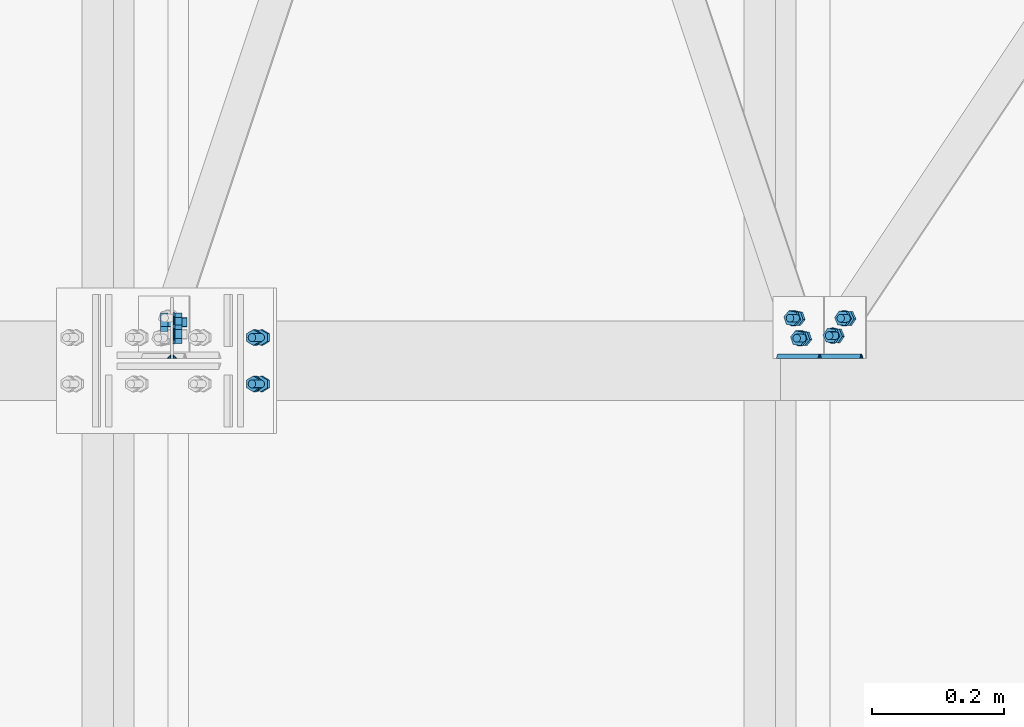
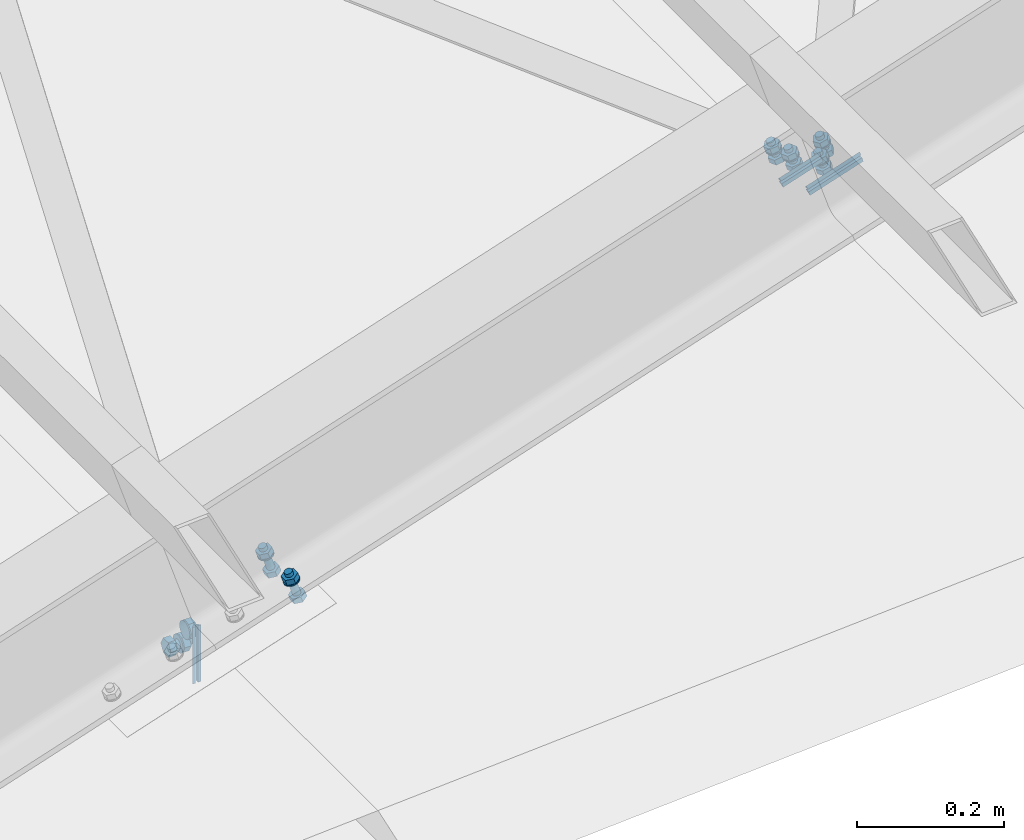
# One storey, part 36 of 53: 30 mechanical fasteners, 6 fasteners.
"""IFC4 building model written with IfcOpenShell, lengths in metres."""

from ifc_helpers import new_model, si_unit, frame, origin_with_axes, place, context, project, spatial, polyline, outline, extrude, type_object, element, save


model = new_model("IFC4")

# Units and contexts
model_context = context("Model", 3, precision=1e-05, world=origin_with_axes())
ifc_project = project(units=[si_unit("LENGTHUNIT", "METRE"), si_unit("AREAUNIT", "SQUARE_METRE"), si_unit("VOLUMEUNIT", "CUBIC_METRE"), si_unit("MASSUNIT", "GRAM", prefix="KILO"), si_unit("TIMEUNIT", "SECOND"), si_unit("PLANEANGLEUNIT", "RADIAN"), si_unit("SOLIDANGLEUNIT", "STERADIAN"), si_unit("THERMODYNAMICTEMPERATUREUNIT", "DEGREE_CELSIUS")], contexts=[model_context])

# Site, building, storey
placement_1 = place(None, origin_with_axes())
site = spatial("IfcSite", under=ifc_project, at=placement_1, Name="Italia", CompositionType="ELEMENT")
building = spatial("IfcBuilding", under=site, at=placement_1, Name="Capannone", CompositionType="ELEMENT")
storey_placement = place(None, frame((0.0, 0.0, 5.550000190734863), z_axis=(0.0, 0.0, 1.0), x_axis=(1.0, 0.0, 0.0)))
storey = spatial("IfcBuildingStorey", under=building, at=storey_placement, Name="Storey 1", CompositionType="ELEMENT", Elevation=5.550000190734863)

# Mechanical fasteners
mechanical_fastener_type_1 = type_object("IfcMechanicalFastenerType", Name="Collegamento -1055_-1089", PredefinedType="BOLT")
placement_2 = place(placement_1, origin_with_axes())
mechanical_fastener_1_placement = place(placement_2, origin_with_axes())
element("IfcMechanicalFastener", 1, at=mechanical_fastener_1_placement, inside=storey, type_object=mechanical_fastener_type_1, Name="Collegamento -1055_-1089", NominalDiameter=0.0119996, context=model_context, shape_type="SweptSolid", body=[
    extrude(outline(polyline([(0.0, 0.0), (-0.00982285, -0.00689316), (-0.00876427, -0.0188463), (0.0021162, -0.0239067), (0.011939, -0.0170135), (0.0108805, -0.00506043), (0.0, 0.0)])), frame((1.01869, 12.0369, 5.94524), z_axis=(0.312149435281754, 0.0, -0.950033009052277), x_axis=(0.0, 1.0, 0.0)), (0.0, 0.0, 1.0), 0.00960016),
])
mechanical_fastener_type_2 = type_object("IfcMechanicalFastenerType", Name="Collegamento -1055_-1089", PredefinedType="BOLT")
mechanical_fastener_2_placement = place(placement_2, origin_with_axes())
element("IfcMechanicalFastener", 2, at=mechanical_fastener_2_placement, inside=storey, type_object=mechanical_fastener_type_2, Name="Collegamento -1055_-1089", NominalDiameter=0.012, context=model_context, shape_type="SweptSolid", body=[
    extrude(outline(polyline([(0.0, 0.0), (-0.000204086, -0.00155306), (-0.000802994, -0.00300026), (-0.00175667, -0.00424266), (-0.00299931, -0.00519633), (-0.00444698, -0.00579572), (-0.00599957, -0.00600004), (-0.00755215, -0.00579572), (-0.00899982, -0.00519633), (-0.0102425, -0.00424266), (-0.0111961, -0.00300026), (-0.011795, -0.00155306), (-0.0119991, 0.0), (-0.011795, 0.00155306), (-0.0111961, 0.00300002), (-0.0102425, 0.00424242), (-0.00899982, 0.00519609), (-0.00755215, 0.00579548), (-0.00599957, 0.00600004), (-0.00444698, 0.00579548), (-0.00299931, 0.00519609), (-0.00175667, 0.00424242), (-0.000802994, 0.00300002), (-0.000204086, 0.00155306), (0.0, 0.0)])), frame((0.998594, 12.0439, 5.96811), z_axis=(0.312156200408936, 0.0, -0.95003080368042), x_axis=(0.0, 1.0, 0.0)), (0.0, 0.0, 1.0), 0.028),
])
mechanical_fastener_type_3 = type_object("IfcMechanicalFastenerType", Name="Collegamento -1055_-1089", PredefinedType="BOLT")
mechanical_fastener_3_placement = place(placement_2, origin_with_axes())
element("IfcMechanicalFastener", 3, at=mechanical_fastener_3_placement, inside=storey, type_object=mechanical_fastener_type_3, Name="Collegamento -1055_-1089", NominalDiameter=0.0119996, context=model_context, shape_type="SweptSolid", body=[
    extrude(outline(polyline([(0.0, 0.0), (-0.00982285, -0.00689292), (-0.00876427, -0.0188463), (0.0021162, -0.0239065), (0.011939, -0.0170133), (0.0108805, -0.0050602), (0.0, 0.0)])), frame((1.01195, 12.0369, 5.96576), z_axis=(0.312149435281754, 0.0, -0.950033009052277), x_axis=(0.0, 1.0, 0.0)), (0.0, 0.0, 1.0), 0.00960016),
])
mechanical_fastener_type_4 = type_object("IfcMechanicalFastenerType", Name="Collegamento -1055_-1089", PredefinedType="BOLT")
mechanical_fastener_4_placement = place(placement_2, origin_with_axes())
element("IfcMechanicalFastener", 4, at=mechanical_fastener_4_placement, inside=storey, type_object=mechanical_fastener_type_4, Name="Collegamento -1055_-1089", NominalDiameter=0.024, context=model_context, shape_type="SweptSolid", body=[
    extrude(outline(polyline([(0.0, 0.0), (-0.000409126, -0.00310588), (-0.00160789, -0.0059998), (-0.00351524, -0.00848508), (-0.00600052, -0.0103922), (-0.00889397, -0.0115912), (-0.0120001, -0.0119998), (-0.0151062, -0.0115912), (-0.0179996, -0.0103922), (-0.0204849, -0.00848508), (-0.0223923, -0.0059998), (-0.023591, -0.00310588), (-0.0240002, 0.0), (-0.023591, 0.00310588), (-0.0223923, 0.00600004), (-0.0204849, 0.00848532), (-0.0179996, 0.0103924), (-0.0151062, 0.0115912), (-0.0120001, 0.0120001), (-0.00889397, 0.0115912), (-0.00600052, 0.0103924), (-0.00351524, 0.00848532), (-0.00160789, 0.00600004), (-0.000409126, 0.00310588), (0.0, 0.0)])), frame((1.00359, 12.0499, 5.95291), z_axis=(0.312059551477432, 0.0, -0.95006251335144), x_axis=(0.0, 1.0, 0.0)), (0.0, 0.0, 1.0), 0.00200058),
])
mechanical_fastener_type_5 = type_object("IfcMechanicalFastenerType", Name="Collegamento -1055_-1089", PredefinedType="BOLT")
mechanical_fastener_5_placement = place(placement_2, origin_with_axes())
element("IfcMechanicalFastener", 5, at=mechanical_fastener_5_placement, inside=storey, type_object=mechanical_fastener_type_5, Name="Collegamento -1055_-1089", NominalDiameter=0.0119992, context=model_context, shape_type="SweptSolid", body=[
    extrude(outline(polyline([(0.0, 0.0), (-0.00982189, -0.00689292), (-0.00876427, -0.018846), (0.0021162, -0.0239065), (0.011939, -0.0170135), (0.0108814, -0.0050602), (0.0, 0.0)])), frame((1.03615, 12.0631, 5.95097), z_axis=(0.312149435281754, 0.0, -0.950033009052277), x_axis=(0.0, 1.0, 0.0)), (0.0, 0.0, 1.0), 0.00960016),
])
mechanical_fastener_type_6 = type_object("IfcMechanicalFastenerType", Name="Collegamento -1055_-1089", PredefinedType="BOLT")
mechanical_fastener_6_placement = place(placement_2, origin_with_axes())
element("IfcMechanicalFastener", 6, at=mechanical_fastener_6_placement, inside=storey, type_object=mechanical_fastener_type_6, Name="Collegamento -1055_-1089", NominalDiameter=0.012, context=model_context, shape_type="SweptSolid", body=[
    extrude(outline(polyline([(0.0, 0.0), (-0.000204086, -0.00155306), (-0.000802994, -0.00300002), (-0.00175667, -0.00424242), (-0.00299931, -0.00519609), (-0.00444698, -0.00579548), (-0.00599957, -0.00600004), (-0.00755215, -0.00579548), (-0.00899982, -0.00519609), (-0.0102425, -0.00424242), (-0.0111961, -0.00300002), (-0.011795, -0.00155306), (-0.0119991, 0.0), (-0.011795, 0.00155306), (-0.0111961, 0.00300002), (-0.0102425, 0.00424242), (-0.00899982, 0.00519609), (-0.00755215, 0.00579548), (-0.00599957, 0.00600004), (-0.00444698, 0.00579548), (-0.00299931, 0.00519609), (-0.00175667, 0.00424242), (-0.000802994, 0.00300002), (-0.000204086, 0.00155306), (0.0, 0.0)])), frame((1.01606, 12.0701, 5.97384), z_axis=(0.312158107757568, 0.0, -0.950030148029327), x_axis=(0.0, 1.0, 0.0)), (0.0, 0.0, 1.0), 0.028),
])
mechanical_fastener_type_7 = type_object("IfcMechanicalFastenerType", Name="Collegamento -1055_-1089", PredefinedType="BOLT")
mechanical_fastener_7_placement = place(placement_2, origin_with_axes())
element("IfcMechanicalFastener", 7, at=mechanical_fastener_7_placement, inside=storey, type_object=mechanical_fastener_type_7, Name="Collegamento -1055_-1089", NominalDiameter=0.0119992, context=model_context, shape_type="SweptSolid", body=[
    extrude(outline(polyline([(0.0, 0.0), (-0.00982189, -0.00689292), (-0.00876427, -0.0188463), (0.0021162, -0.0239065), (0.011939, -0.0170135), (0.0108814, -0.00506043), (0.0, 0.0)])), frame((1.02941, 12.0631, 5.9715), z_axis=(0.312149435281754, 0.0, -0.950033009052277), x_axis=(0.0, 1.0, 0.0)), (0.0, 0.0, 1.0), 0.00960016),
])
mechanical_fastener_type_8 = type_object("IfcMechanicalFastenerType", Name="Collegamento -1055_-1089", PredefinedType="BOLT")
mechanical_fastener_8_placement = place(placement_2, origin_with_axes())
element("IfcMechanicalFastener", 8, at=mechanical_fastener_8_placement, inside=storey, type_object=mechanical_fastener_type_8, Name="Collegamento -1055_-1089", NominalDiameter=0.024, context=model_context, shape_type="SweptSolid", body=[
    extrude(outline(polyline([(0.0, 0.0), (-0.000409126, -0.00310588), (-0.00160789, -0.00600004), (-0.00351524, -0.00848556), (-0.00600052, -0.0103924), (-0.00889397, -0.0115912), (-0.0120001, -0.0120001), (-0.0151062, -0.0115912), (-0.0179996, -0.0103924), (-0.0204849, -0.00848556), (-0.0223923, -0.00600004), (-0.023591, -0.00310588), (-0.0240002, 0.0), (-0.023591, 0.00310564), (-0.0223923, 0.0059998), (-0.0204849, 0.00848532), (-0.0179996, 0.0103924), (-0.0151062, 0.011591), (-0.0120001, 0.0120001), (-0.00889397, 0.011591), (-0.00600052, 0.0103924), (-0.00351524, 0.00848532), (-0.00160789, 0.0059998), (-0.000409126, 0.00310564), (0.0, 0.0)])), frame((1.02105, 12.0761, 5.95864), z_axis=(0.312200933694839, 0.0, -0.95001608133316), x_axis=(0.0, 1.0, 0.0)), (0.0, 0.0, 1.0), 0.00199967),
])

# Fasteners
fastener_type_1 = type_object("IfcFastenerType", Name="Collegamento -1055_-1089", PredefinedType="WELD")
fastener_1_placement = place(placement_2, origin_with_axes())
element("IfcFastener", 9, at=fastener_1_placement, inside=storey, type_object=fastener_type_1, Name="Collegamento -1055_-1089", context=model_context, shape_type="SweptSolid", body=[
    extrude(outline(polyline([(0.0, 0.0), (0.00717258, -0.00695801), (0.0, -0.00695801), (0.0, 0.0)])), frame((0.960742, 12.0031, 5.94399), z_axis=(0.950030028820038, 0.0, 0.312158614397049), x_axis=(0.0, 1.0, 0.0)), (0.0, 0.0, 1.0), 0.0880998),
])
fastener_type_2 = type_object("IfcFastenerType", Name="Collegamento -1055_-1089", PredefinedType="WELD")
fastener_2_placement = place(placement_2, origin_with_axes())
element("IfcFastener", 10, at=fastener_2_placement, inside=storey, type_object=fastener_type_2, Name="Collegamento -1055_-1089", context=model_context, shape_type="SweptSolid", body=[
    extrude(outline(polyline([(0.0, 0.0), (-0.00717258, 0.00695801), (0.0, 0.00695801), (0.0, 0.0)])), frame((1.05031, 12.0031, 5.95362), z_axis=(-0.950031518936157, 0.0, -0.312153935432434), x_axis=(0.0, -1.0, 0.0)), (0.0, 0.0, 1.0), 0.0880996),
])

# Mechanical fasteners
mechanical_fastener_type_9 = type_object("IfcMechanicalFastenerType", Name="Collegamento -1055_0111", PredefinedType="BOLT")
mechanical_fastener_9_placement = place(placement_2, origin_with_axes())
element("IfcMechanicalFastener", 11, at=mechanical_fastener_9_placement, inside=storey, type_object=mechanical_fastener_type_9, Name="Collegamento -1055_0111", NominalDiameter=0.0119997, context=model_context, shape_type="SweptSolid", body=[
    extrude(outline(polyline([(0.0, 0.0), (-0.0113239, 0.00397301), (-0.0204258, -0.00384688), (-0.0182047, -0.0156395), (-0.00688171, -0.0196126), (0.00222111, -0.0117929), (0.0, 0.0)])), frame((0.965653, 12.0431, 5.96991), z_axis=(0.312164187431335, 0.0, -0.95002818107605), x_axis=(0.0, 1.0, 0.0)), (0.0, 0.0, 1.0), 0.0095997),
])
mechanical_fastener_type_10 = type_object("IfcMechanicalFastenerType", Name="Collegamento -1055_0111", PredefinedType="BOLT")
mechanical_fastener_10_placement = place(placement_2, origin_with_axes())
element("IfcMechanicalFastener", 12, at=mechanical_fastener_10_placement, inside=storey, type_object=mechanical_fastener_type_10, Name="Collegamento -1055_0111", NominalDiameter=0.012, context=model_context, shape_type="SweptSolid", body=[
    extrude(outline(polyline([(0.0, 0.0), (-0.000204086, -0.00155306), (-0.000802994, -0.00300002), (-0.00175667, -0.00424266), (-0.00299931, -0.00519633), (-0.00444698, -0.00579572), (-0.00599957, -0.00600004), (-0.00755215, -0.00579572), (-0.00899982, -0.00519633), (-0.0102425, -0.00424266), (-0.0111961, -0.00300002), (-0.011795, -0.00155306), (-0.0119991, 0.0), (-0.011795, 0.00155282), (-0.0111961, 0.00300002), (-0.0102425, 0.00424266), (-0.00899982, 0.00519609), (-0.00755215, 0.00579548), (-0.00599957, 0.00600004), (-0.00444698, 0.00579548), (-0.00299931, 0.00519609), (-0.00175667, 0.00424266), (-0.000802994, 0.00300002), (-0.000204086, 0.00155282), (0.0, 0.0)])), frame((0.949483, 12.04, 5.99407), z_axis=(0.31215426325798, 0.0, -0.950031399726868), x_axis=(0.0, 1.0, 0.0)), (0.0, 0.0, 1.0), 0.028),
])
mechanical_fastener_type_11 = type_object("IfcMechanicalFastenerType", Name="Collegamento -1055_0111", PredefinedType="BOLT")
mechanical_fastener_11_placement = place(placement_2, origin_with_axes())
element("IfcMechanicalFastener", 13, at=mechanical_fastener_11_placement, inside=storey, type_object=mechanical_fastener_type_11, Name="Collegamento -1055_0111", NominalDiameter=0.0119997, context=model_context, shape_type="SweptSolid", body=[
    extrude(outline(polyline([(0.0, 0.0), (-0.0113239, 0.00397301), (-0.0204258, -0.00384665), (-0.0182047, -0.0156395), (-0.00688171, -0.0196123), (0.00222111, -0.0117927), (0.0, 0.0)])), frame((0.95891, 12.0431, 5.99043), z_axis=(0.312158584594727, 0.0, -0.950030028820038), x_axis=(0.0, 1.0, 0.0)), (0.0, 0.0, 1.0), 0.00959968),
])
mechanical_fastener_type_12 = type_object("IfcMechanicalFastenerType", Name="Collegamento -1055_0111", PredefinedType="BOLT")
mechanical_fastener_12_placement = place(placement_2, origin_with_axes())
element("IfcMechanicalFastener", 14, at=mechanical_fastener_12_placement, inside=storey, type_object=mechanical_fastener_type_12, Name="Collegamento -1055_0111", NominalDiameter=0.024, context=model_context, shape_type="SweptSolid", body=[
    extrude(outline(polyline([(0.0, 0.0), (-0.000409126, -0.00310588), (-0.00160789, -0.00600004), (-0.00351524, -0.00848532), (-0.00600052, -0.0103922), (-0.00889397, -0.0115912), (-0.0120001, -0.0120001), (-0.0151062, -0.0115912), (-0.0179996, -0.0103922), (-0.0204849, -0.00848532), (-0.0223923, -0.00600004), (-0.023591, -0.00310588), (-0.0240002, 0.0), (-0.023591, 0.00310588), (-0.0223923, 0.00600004), (-0.0204849, 0.00848532), (-0.0179996, 0.0103922), (-0.0151062, 0.011591), (-0.0120001, 0.0119998), (-0.00889397, 0.011591), (-0.00600052, 0.0103922), (-0.00351524, 0.00848532), (-0.00160789, 0.00600004), (-0.000409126, 0.00310588), (0.0, 0.0)])), frame((0.954478, 12.046, 5.97887), z_axis=(0.312254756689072, 0.0, -0.949998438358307), x_axis=(0.0, 1.0, 0.0)), (0.0, 0.0, 1.0), 0.00199971),
])
mechanical_fastener_type_13 = type_object("IfcMechanicalFastenerType", Name="Collegamento -1055_0111", PredefinedType="BOLT")
mechanical_fastener_13_placement = place(placement_2, origin_with_axes())
element("IfcMechanicalFastener", 15, at=mechanical_fastener_13_placement, inside=storey, type_object=mechanical_fastener_type_13, Name="Collegamento -1055_0111", NominalDiameter=0.0119997, context=model_context, shape_type="SweptSolid", body=[
    extrude(outline(polyline([(0.0, 0.0), (-0.0113239, 0.00397277), (-0.0204258, -0.00384712), (-0.0182047, -0.0156395), (-0.00688171, -0.0196126), (0.00222111, -0.0117927), (0.0, 0.0)])), frame((0.955588, 12.0733, 5.96661), z_axis=(0.312149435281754, 0.0, -0.950033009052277), x_axis=(0.0, 1.0, 0.0)), (0.0, 0.0, 1.0), 0.00960016),
])
mechanical_fastener_type_14 = type_object("IfcMechanicalFastenerType", Name="Collegamento -1055_0111", PredefinedType="BOLT")
mechanical_fastener_14_placement = place(placement_2, origin_with_axes())
element("IfcMechanicalFastener", 16, at=mechanical_fastener_14_placement, inside=storey, type_object=mechanical_fastener_type_14, Name="Collegamento -1055_0111", NominalDiameter=0.012, context=model_context, shape_type="SweptSolid", body=[
    extrude(outline(polyline([(0.0, 0.0), (-0.000204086, -0.00155306), (-0.000802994, -0.00300002), (-0.00175667, -0.00424266), (-0.00299931, -0.00519609), (-0.00444698, -0.00579548), (-0.00599957, -0.00600004), (-0.00755215, -0.00579548), (-0.00899982, -0.00519609), (-0.0102425, -0.00424266), (-0.0111961, -0.00300002), (-0.011795, -0.00155306), (-0.0119991, 0.0), (-0.011795, 0.00155306), (-0.0111961, 0.00300002), (-0.0102425, 0.00424266), (-0.00899982, 0.00519633), (-0.00755215, 0.00579548), (-0.00599957, 0.00600004), (-0.00444698, 0.00579548), (-0.00299931, 0.00519633), (-0.00175667, 0.00424266), (-0.000802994, 0.00300002), (-0.000204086, 0.00155306), (0.0, 0.0)])), frame((0.939418, 12.0702, 5.99077), z_axis=(0.31215426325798, 0.0, -0.950031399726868), x_axis=(0.0, 1.0, 0.0)), (0.0, 0.0, 1.0), 0.028),
])
mechanical_fastener_type_15 = type_object("IfcMechanicalFastenerType", Name="Collegamento -1055_0111", PredefinedType="BOLT")
mechanical_fastener_15_placement = place(placement_2, origin_with_axes())
element("IfcMechanicalFastener", 17, at=mechanical_fastener_15_placement, inside=storey, type_object=mechanical_fastener_type_15, Name="Collegamento -1055_0111", NominalDiameter=0.0119997, context=model_context, shape_type="SweptSolid", body=[
    extrude(outline(polyline([(0.0, 0.0), (-0.0113239, 0.00397253), (-0.0204258, -0.00384712), (-0.0182047, -0.0156398), (-0.00688171, -0.0196126), (0.00222111, -0.0117929), (0.0, 0.0)])), frame((0.948845, 12.0733, 5.98713), z_axis=(0.312149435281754, 0.0, -0.950033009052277), x_axis=(0.0, 1.0, 0.0)), (0.0, 0.0, 1.0), 0.00960016),
])
mechanical_fastener_type_16 = type_object("IfcMechanicalFastenerType", Name="Collegamento -1055_0111", PredefinedType="BOLT")
mechanical_fastener_16_placement = place(placement_2, origin_with_axes())
element("IfcMechanicalFastener", 18, at=mechanical_fastener_16_placement, inside=storey, type_object=mechanical_fastener_type_16, Name="Collegamento -1055_0111", NominalDiameter=0.024, context=model_context, shape_type="SweptSolid", body=[
    extrude(outline(polyline([(0.0, 0.0), (-0.000409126, -0.00310588), (-0.00160789, -0.00600004), (-0.00351524, -0.00848532), (-0.00600052, -0.0103924), (-0.00889397, -0.0115912), (-0.0120001, -0.0120001), (-0.0151062, -0.0115912), (-0.0179996, -0.0103924), (-0.0204849, -0.00848532), (-0.0223923, -0.00600004), (-0.023591, -0.00310588), (-0.0240002, 0.0), (-0.023591, 0.00310588), (-0.0223923, 0.00600004), (-0.0204849, 0.00848532), (-0.0179996, 0.0103924), (-0.0151062, 0.0115912), (-0.0120001, 0.0120001), (-0.00889397, 0.0115912), (-0.00600052, 0.0103924), (-0.00351524, 0.00848508), (-0.00160789, 0.00600004), (-0.000409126, 0.00310588), (0.0, 0.0)])), frame((0.944413, 12.0762, 5.97557), z_axis=(0.312184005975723, 0.0, -0.950021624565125), x_axis=(0.0, 1.0, 0.0)), (0.0, 0.0, 1.0), 0.00200016),
])

# Fasteners
fastener_type_3 = type_object("IfcFastenerType", Name="Collegamento -1055_0111", PredefinedType="WELD")
fastener_3_placement = place(placement_2, origin_with_axes())
element("IfcFastener", 19, at=fastener_3_placement, inside=storey, type_object=fastener_type_3, Name="Collegamento -1055_0111", context=model_context, shape_type="SweptSolid", body=[
    extrude(outline(polyline([(0.0, 0.0), (0.00717258, -0.00695753), (0.0, -0.00695753), (0.0, 0.0)])), frame((0.918555, 12.0031, 5.97224), z_axis=(0.950031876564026, 0.0, 0.312152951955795), x_axis=(0.0, 1.0, 0.0)), (0.0, 0.0, 1.0), 0.0660997),
])
fastener_type_4 = type_object("IfcFastenerType", Name="Collegamento -1055_0111", PredefinedType="WELD")
fastener_4_placement = place(placement_2, origin_with_axes())
element("IfcFastener", 20, at=fastener_4_placement, inside=storey, type_object=fastener_type_4, Name="Collegamento -1055_0111", context=model_context, shape_type="SweptSolid", body=[
    extrude(outline(polyline([(0.0, 0.0), (-0.00717258, 0.00695848), (0.0, 0.00695848), (0.0, 0.0)])), frame((0.987225, 12.0031, 5.97499), z_axis=(-0.950034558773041, 0.0, -0.312144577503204), x_axis=(0.0, -1.0, 0.0)), (0.0, 0.0, 1.0), 0.0661),
])

# Mechanical fasteners
mechanical_fastener_type_17 = type_object("IfcMechanicalFastenerType", Name="Collegamenti 0101_0001 0103_0003 0105_0005 0107_0007 0109_0009 0111_0011", PredefinedType="BOLT")
mechanical_fastener_17_placement = place(placement_2, origin_with_axes())
element("IfcMechanicalFastener", 21, at=mechanical_fastener_17_placement, inside=storey, type_object=mechanical_fastener_type_17, Name="Collegamenti 0101_0001 0103_0003 0105_0005 0107_0007 0109_0009 0111_0011", NominalDiameter=0.0119998, context=model_context, shape_type="SweptSolid", body=[
    extrude(outline(polyline([(0.0, 0.0), (0.0120001, 0.0), (0.0179996, -0.0103923), (0.0120001, -0.0207845), (0.0, -0.0207845), (-0.00600052, -0.0103923), (0.0, 0.0)])), frame((0.15003, 12.029, 5.58351), z_axis=(0.312164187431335, 0.0, -0.95002818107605), x_axis=(0.0, 1.0, 0.0)), (0.0, 0.0, 1.0), 0.0095997),
])
mechanical_fastener_type_18 = type_object("IfcMechanicalFastenerType", Name="Collegamenti 0101_0001 0103_0003 0105_0005 0107_0007 0109_0009 0111_0011", PredefinedType="BOLT")
mechanical_fastener_18_placement = place(placement_2, origin_with_axes())
element("IfcMechanicalFastener", 22, at=mechanical_fastener_18_placement, inside=storey, type_object=mechanical_fastener_type_18, Name="Collegamenti 0101_0001 0103_0003 0105_0005 0107_0007 0109_0009 0111_0011", NominalDiameter=0.012, context=model_context, shape_type="SweptSolid", body=[
    extrude(outline(polyline([(0.0, 0.0), (-0.000204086, -0.00155306), (-0.000802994, -0.00300014), (-0.00175667, -0.00424266), (-0.00299931, -0.00519633), (-0.00444698, -0.00579572), (-0.00599957, -0.00600016), (-0.00755215, -0.00579572), (-0.00899982, -0.00519633), (-0.0102425, -0.00424266), (-0.0111961, -0.00300014), (-0.011795, -0.00155306), (-0.0119991, 0.0), (-0.011795, 0.00155294), (-0.0111961, 0.0029999), (-0.0102425, 0.00424254), (-0.00899982, 0.00519609), (-0.00755215, 0.00579548), (-0.00599957, 0.00599992), (-0.00444698, 0.00579548), (-0.00299931, 0.00519609), (-0.00175667, 0.00424254), (-0.000802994, 0.0029999), (-0.000204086, 0.00155294), (0.0, 0.0)])), frame((0.126797, 12.041, 5.62092), z_axis=(0.312151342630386, 0.0, -0.950032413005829), x_axis=(0.0, 1.0, 0.0)), (0.0, 0.0, 1.0), 0.0428004),
])
mechanical_fastener_type_19 = type_object("IfcMechanicalFastenerType", Name="Collegamenti 0101_0001 0103_0003 0105_0005 0107_0007 0109_0009 0111_0011", PredefinedType="BOLT")
mechanical_fastener_19_placement = place(placement_2, origin_with_axes())
element("IfcMechanicalFastener", 23, at=mechanical_fastener_19_placement, inside=storey, type_object=mechanical_fastener_type_19, Name="Collegamenti 0101_0001 0103_0003 0105_0005 0107_0007 0109_0009 0111_0011", NominalDiameter=0.0119998, context=model_context, shape_type="SweptSolid", body=[
    extrude(outline(polyline([(0.0, 0.0), (0.0120001, 0.0), (0.0179996, -0.0103924), (0.0120001, -0.0207846), (0.0, -0.0207846), (-0.00600052, -0.0103924), (0.0, 0.0)])), frame((0.138667, 12.029, 5.61809), z_axis=(0.312164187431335, 0.0, -0.95002818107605), x_axis=(0.0, 1.0, 0.0)), (0.0, 0.0, 1.0), 0.0095997),
])
mechanical_fastener_type_20 = type_object("IfcMechanicalFastenerType", Name="Collegamenti 0101_0001 0103_0003 0105_0005 0107_0007 0109_0009 0111_0011", PredefinedType="BOLT")
mechanical_fastener_20_placement = place(placement_2, origin_with_axes())
element("IfcMechanicalFastener", 24, at=mechanical_fastener_20_placement, inside=storey, type_object=mechanical_fastener_type_20, Name="Collegamenti 0101_0001 0103_0003 0105_0005 0107_0007 0109_0009 0111_0011", NominalDiameter=0.024, context=model_context, shape_type="SweptSolid", body=[
    extrude(outline(polyline([(0.0, 0.0), (-0.000409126, -0.00310588), (-0.00160789, -0.00600004), (-0.00351524, -0.00848532), (-0.00600052, -0.0103923), (-0.00889397, -0.0115911), (-0.0120001, -0.012), (-0.0151062, -0.0115911), (-0.0179996, -0.0103923), (-0.0204849, -0.00848532), (-0.0223923, -0.00600004), (-0.023591, -0.00310588), (-0.0240002, 0.0), (-0.023591, 0.00310588), (-0.0223923, 0.00600004), (-0.0204849, 0.0084852), (-0.0179996, 0.0103923), (-0.0151062, 0.0115912), (-0.0120001, 0.012), (-0.00889397, 0.0115912), (-0.00600052, 0.0103923), (-0.00351524, 0.0084852), (-0.00160789, 0.00600004), (-0.000409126, 0.00310588), (0.0, 0.0)])), frame((0.131791, 12.047, 5.60572), z_axis=(0.312059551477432, 0.0, -0.95006251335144), x_axis=(0.0, 1.0, 0.0)), (0.0, 0.0, 1.0), 0.00200058),
])
mechanical_fastener_type_21 = type_object("IfcMechanicalFastenerType", Name="Collegamenti 0101_0001 0103_0003 0105_0005 0107_0007 0109_0009 0111_0011", PredefinedType="BOLT")
mechanical_fastener_21_placement = place(placement_2, origin_with_axes())
element("IfcMechanicalFastener", 25, at=mechanical_fastener_21_placement, inside=storey, type_object=mechanical_fastener_type_21, Name="Collegamenti 0101_0001 0103_0003 0105_0005 0107_0007 0109_0009 0111_0011", NominalDiameter=0.0119998, context=model_context, shape_type="SweptSolid", body=[
    extrude(outline(polyline([(0.0, 0.0), (0.0120001, 0.0), (0.0180006, -0.0103923), (0.0120001, -0.0207845), (0.0, -0.0207845), (-0.00599957, -0.0103923), (0.0, 0.0)])), frame((0.15003, 11.959, 5.58351), z_axis=(0.312164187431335, 0.0, -0.95002818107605), x_axis=(0.0, 1.0, 0.0)), (0.0, 0.0, 1.0), 0.0095997),
])
mechanical_fastener_type_22 = type_object("IfcMechanicalFastenerType", Name="Collegamenti 0101_0001 0103_0003 0105_0005 0107_0007 0109_0009 0111_0011", PredefinedType="BOLT")
mechanical_fastener_22_placement = place(placement_2, origin_with_axes())
element("IfcMechanicalFastener", 26, at=mechanical_fastener_22_placement, inside=storey, type_object=mechanical_fastener_type_22, Name="Collegamenti 0101_0001 0103_0003 0105_0005 0107_0007 0109_0009 0111_0011", NominalDiameter=0.012, context=model_context, shape_type="SweptSolid", body=[
    extrude(outline(polyline([(0.0, 0.0), (-0.000204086, -0.00155306), (-0.000802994, -0.00300014), (-0.00175667, -0.00424266), (-0.00299931, -0.00519633), (-0.00444698, -0.00579572), (-0.00599957, -0.00600016), (-0.00755215, -0.00579572), (-0.00899982, -0.00519633), (-0.0102425, -0.00424266), (-0.0111961, -0.00300014), (-0.011795, -0.00155306), (-0.0119991, 0.0), (-0.011795, 0.00155294), (-0.0111961, 0.0029999), (-0.0102425, 0.00424254), (-0.00899982, 0.00519609), (-0.00755215, 0.00579548), (-0.00599957, 0.00599992), (-0.00444698, 0.00579548), (-0.00299931, 0.00519609), (-0.00175667, 0.00424254), (-0.000802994, 0.0029999), (-0.000204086, 0.00155294), (0.0, 0.0)])), frame((0.126797, 11.971, 5.62092), z_axis=(0.312151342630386, 0.0, -0.950032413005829), x_axis=(0.0, 1.0, 0.0)), (0.0, 0.0, 1.0), 0.0428004),
])
mechanical_fastener_type_23 = type_object("IfcMechanicalFastenerType", Name="Collegamenti 0101_0001 0103_0003 0105_0005 0107_0007 0109_0009 0111_0011", PredefinedType="BOLT")
mechanical_fastener_23_placement = place(placement_2, origin_with_axes())
element("IfcMechanicalFastener", 27, at=mechanical_fastener_23_placement, inside=storey, type_object=mechanical_fastener_type_23, Name="Collegamenti 0101_0001 0103_0003 0105_0005 0107_0007 0109_0009 0111_0011", NominalDiameter=0.0119998, context=model_context, shape_type="SweptSolid", body=[
    extrude(outline(polyline([(0.0, 0.0), (0.0120001, 0.0), (0.0180006, -0.0103924), (0.0120001, -0.0207846), (0.0, -0.0207846), (-0.00599957, -0.0103924), (0.0, 0.0)])), frame((0.138667, 11.959, 5.61809), z_axis=(0.312164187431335, 0.0, -0.95002818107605), x_axis=(0.0, 1.0, 0.0)), (0.0, 0.0, 1.0), 0.0095997),
])
mechanical_fastener_type_24 = type_object("IfcMechanicalFastenerType", Name="Collegamenti 0101_0001 0103_0003 0105_0005 0107_0007 0109_0009 0111_0011", PredefinedType="BOLT")
mechanical_fastener_24_placement = place(placement_2, origin_with_axes())
element("IfcMechanicalFastener", 28, at=mechanical_fastener_24_placement, inside=storey, type_object=mechanical_fastener_type_24, Name="Collegamenti 0101_0001 0103_0003 0105_0005 0107_0007 0109_0009 0111_0011", NominalDiameter=0.024, context=model_context, shape_type="SweptSolid", body=[
    extrude(outline(polyline([(0.0, 0.0), (-0.000409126, -0.00310588), (-0.00160789, -0.00600004), (-0.00351524, -0.00848532), (-0.00600052, -0.0103923), (-0.00889397, -0.0115911), (-0.0120001, -0.012), (-0.0151062, -0.0115911), (-0.0179996, -0.0103923), (-0.0204849, -0.00848532), (-0.0223923, -0.00600004), (-0.023591, -0.00310588), (-0.0240002, 0.0), (-0.023591, 0.00310588), (-0.0223923, 0.00600004), (-0.0204849, 0.0084852), (-0.0179996, 0.0103923), (-0.0151062, 0.0115912), (-0.0120001, 0.012), (-0.00889397, 0.0115912), (-0.00600052, 0.0103923), (-0.00351524, 0.0084852), (-0.00160789, 0.00600004), (-0.000409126, 0.00310588), (0.0, 0.0)])), frame((0.131791, 11.977, 5.60572), z_axis=(0.312059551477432, 0.0, -0.95006251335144), x_axis=(0.0, 1.0, 0.0)), (0.0, 0.0, 1.0), 0.00200058),
])
mechanical_fastener_type_25 = type_object("IfcMechanicalFastenerType", Name="Collegamento 0109_0011", PredefinedType="BOLT")
mechanical_fastener_25_placement = place(placement_2, origin_with_axes())
element("IfcMechanicalFastener", 29, at=mechanical_fastener_25_placement, inside=storey, type_object=mechanical_fastener_type_25, Name="Collegamento 0109_0011", NominalDiameter=0.0139996, context=model_context, shape_type="SweptSolid", body=[
    extrude(outline(polyline([(0.0, 0.0), (0.00665665, 0.0123158), (-0.00067997, 0.0242391), (-0.0146751, 0.0238466), (-0.0213318, 0.0115309), (-0.0139952, -0.000392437), (0.0, 0.0)])), frame((0.0212, 12.0327, 5.50768), z_axis=(-1.0, 0.0, 0.0), x_axis=(0.0, -1.0, 0.0)), (0.0, 0.0, 1.0), 0.0112),
])
mechanical_fastener_type_26 = type_object("IfcMechanicalFastenerType", Name="Collegamento 0109_0011", PredefinedType="BOLT")
mechanical_fastener_26_placement = place(placement_2, origin_with_axes())
element("IfcMechanicalFastener", 30, at=mechanical_fastener_26_placement, inside=storey, type_object=mechanical_fastener_type_26, Name="Collegamento 0109_0011", NominalDiameter=0.028, context=model_context, shape_type="SweptSolid", body=[
    extrude(outline(polyline([(0.0, 0.0), (-0.000476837, -0.00362349), (-0.00187588, -0.00699997), (-0.0041008, -0.00989962), (-0.00699997, -0.0121245), (-0.0103769, -0.0135231), (-0.0139999, -0.0139999), (-0.0176229, -0.0135231), (-0.0209999, -0.0121245), (-0.0238991, -0.00989962), (-0.026124, -0.00699997), (-0.027523, -0.00362349), (-0.0279999, 0.0), (-0.027523, 0.00362349), (-0.026124, 0.00699997), (-0.0238991, 0.00989962), (-0.0209999, 0.0121245), (-0.0176229, 0.0135231), (-0.0139999, 0.0139999), (-0.0103769, 0.0135231), (-0.00699997, 0.0121245), (-0.0041008, 0.00989962), (-0.00187588, 0.00699997), (-0.000476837, 0.00362349), (0.0, 0.0)])), frame((0.01, 12.026, 5.5196), z_axis=(-1.0, 0.0, 0.0), x_axis=(0.0, -1.0, 0.0)), (0.0, 0.0, 1.0), 0.002),
])
mechanical_fastener_type_27 = type_object("IfcMechanicalFastenerType", Name="Collegamento 0109_0011", PredefinedType="BOLT")
mechanical_fastener_27_placement = place(placement_2, origin_with_axes())
element("IfcMechanicalFastener", 31, at=mechanical_fastener_27_placement, inside=storey, type_object=mechanical_fastener_type_27, Name="Collegamento 0109_0011", NominalDiameter=0.0139997, context=model_context, shape_type="SweptSolid", body=[
    extrude(outline(polyline([(0.0, 0.0), (0.0066576, 0.0123158), (-0.00067997, 0.0242391), (-0.0146742, 0.0238461), (-0.0213318, 0.0115304), (-0.0139942, -0.000392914), (0.0, 0.0)])), frame((0.0, 12.0507, 5.47425), z_axis=(-1.0, 0.0, 0.0), x_axis=(0.0, -1.0, 0.0)), (0.0, 0.0, 1.0), 0.0112),
])
mechanical_fastener_type_28 = type_object("IfcMechanicalFastenerType", Name="Collegamento 0109_0011", PredefinedType="BOLT")
mechanical_fastener_28_placement = place(placement_2, origin_with_axes())
element("IfcMechanicalFastener", 32, at=mechanical_fastener_28_placement, inside=storey, type_object=mechanical_fastener_type_28, Name="Collegamento 0109_0011", NominalDiameter=0.014, context=model_context, shape_type="SweptSolid", body=[
    extrude(outline(polyline([(0.0, 0.0), (-0.000238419, -0.0018115), (-0.000937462, -0.00349998), (-0.0020504, -0.00494957), (-0.00349998, -0.00606203), (-0.00518799, -0.00676155), (-0.00699997, -0.00699997), (-0.00881195, -0.00676155), (-0.0105, -0.00606203), (-0.0119495, -0.00494957), (-0.0130625, -0.00349998), (-0.0137615, -0.0018115), (-0.0139999, 0.0), (-0.0137615, 0.0018115), (-0.0130625, 0.00349998), (-0.0119495, 0.00494957), (-0.0105, 0.00606203), (-0.00881195, 0.00676155), (-0.00699997, 0.00699997), (-0.00518799, 0.00676155), (-0.00349998, 0.00606203), (-0.0020504, 0.00494957), (-0.000937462, 0.00349998), (-0.000238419, 0.0018115), (0.0, 0.0)])), frame((0.029, 12.0511, 5.48617), z_axis=(-1.0, 0.0, 0.0), x_axis=(0.0, -1.0, 0.0)), (0.0, 0.0, 1.0), 0.029),
])
mechanical_fastener_type_29 = type_object("IfcMechanicalFastenerType", Name="Collegamento 0109_0011", PredefinedType="BOLT")
mechanical_fastener_29_placement = place(placement_2, origin_with_axes())
element("IfcMechanicalFastener", 33, at=mechanical_fastener_29_placement, inside=storey, type_object=mechanical_fastener_type_29, Name="Collegamento 0109_0011", NominalDiameter=0.0139997, context=model_context, shape_type="SweptSolid", body=[
    extrude(outline(polyline([(0.0, 0.0), (0.0066576, 0.0123158), (-0.00067997, 0.0242391), (-0.0146742, 0.0238461), (-0.0213318, 0.0115304), (-0.0139942, -0.000392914), (0.0, 0.0)])), frame((0.0212, 12.0507, 5.47425), z_axis=(-1.0, 0.0, 0.0), x_axis=(0.0, -1.0, 0.0)), (0.0, 0.0, 1.0), 0.0112),
])
mechanical_fastener_type_30 = type_object("IfcMechanicalFastenerType", Name="Collegamento 0109_0011", PredefinedType="BOLT")
mechanical_fastener_30_placement = place(placement_2, origin_with_axes())
element("IfcMechanicalFastener", 34, at=mechanical_fastener_30_placement, inside=storey, type_object=mechanical_fastener_type_30, Name="Collegamento 0109_0011", NominalDiameter=0.028, context=model_context, shape_type="SweptSolid", body=[
    extrude(outline(polyline([(0.0, 0.0), (-0.000476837, -0.00362349), (-0.00187588, -0.00699997), (-0.0041008, -0.00989962), (-0.00699997, -0.0121245), (-0.0103769, -0.0135231), (-0.0139999, -0.0139999), (-0.0176229, -0.0135231), (-0.0209999, -0.0121245), (-0.0238991, -0.00989962), (-0.026124, -0.00699997), (-0.027523, -0.00362349), (-0.0279999, 0.0), (-0.027523, 0.00362349), (-0.026124, 0.00699997), (-0.0238991, 0.00989962), (-0.0209999, 0.0121245), (-0.0176229, 0.0135231), (-0.0139999, 0.0139999), (-0.0103769, 0.0135231), (-0.00699997, 0.0121245), (-0.0041008, 0.00989962), (-0.00187588, 0.00699997), (-0.000476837, 0.00362349), (0.0, 0.0)])), frame((0.01, 12.0441, 5.48617), z_axis=(-1.0, 0.0, 0.0), x_axis=(0.0, -1.0, 0.0)), (0.0, 0.0, 1.0), 0.002),
])

# Fasteners
fastener_type_5 = type_object("IfcFastenerType", Name="Collegamento 0109_0011", PredefinedType="WELD")
fastener_5_placement = place(placement_2, origin_with_axes())
element("IfcFastener", 35, at=fastener_5_placement, inside=storey, type_object=fastener_type_5, Name="Collegamento 0109_0011", context=model_context, shape_type="SweptSolid", body=[
    extrude(outline(polyline([(0.0, 0.0), (0.00517273, -0.00501816), (0.0, -0.00501816), (0.0, 0.0)])), frame((0.0129682, 12.0035, 5.54893), z_axis=(0.0, 0.0, -1.0), x_axis=(0.0, 1.0, 0.0)), (0.0, 0.0, 1.0), 0.0941),
])
fastener_type_6 = type_object("IfcFastenerType", Name="Collegamento 0109_0011", PredefinedType="WELD")
fastener_6_placement = place(placement_2, origin_with_axes())
element("IfcFastener", 36, at=fastener_6_placement, inside=storey, type_object=fastener_type_6, Name="Collegamento 0109_0011", context=model_context, shape_type="SweptSolid", body=[
    extrude(outline(polyline([(0.0, 0.0), (0.00517273, -0.00501816), (0.0, -0.00501816), (0.0, 0.0)])), frame((-0.000968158, 12.0035, 5.45483), z_axis=(0.0, 0.0, 1.0), x_axis=(0.0, 1.0, 0.0)), (0.0, 0.0, 1.0), 0.0941),
])

save(model, "model.ifc")
